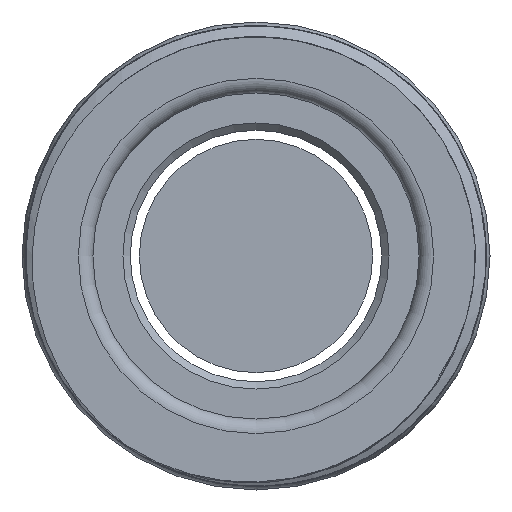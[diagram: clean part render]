
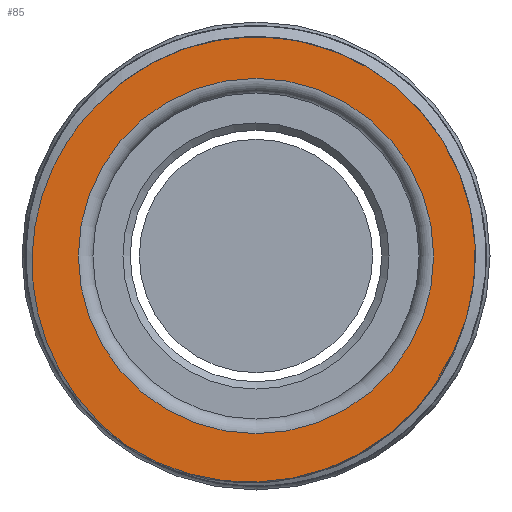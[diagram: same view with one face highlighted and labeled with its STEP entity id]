
A CAD part, front view. The second image highlights one B-rep face of the part: STEP entity #85.
In plain terms, the highlighted planar face has unit normal (0, -1, 0).
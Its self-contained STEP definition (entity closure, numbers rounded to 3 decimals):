
#32=B_SPLINE_CURVE_WITH_KNOTS('',3,(#492,#493,#494,#495,#496,#497,#498,#499,
#500,#501),.UNSPECIFIED.,.F.,.F.,(4,2,2,2,4),(0.,0.25,0.5,0.75,1.),.UNSPECIFIED.);
#33=B_SPLINE_CURVE_WITH_KNOTS('',3,(#504,#505,#506,#507,#508,#509,#510,#511),
 .UNSPECIFIED.,.F.,.F.,(4,2,2,4),(0.,0.5,0.75,1.),.UNSPECIFIED.);
#67=PLANE('',#354);
#85=ADVANCED_FACE('',(#119,#120),#67,.T.);
#119=FACE_BOUND('',#157,.T.);
#120=FACE_BOUND('',#158,.T.);
#157=EDGE_LOOP('',(#200));
#158=EDGE_LOOP('',(#201,#202,#203));
#200=ORIENTED_EDGE('',*,*,#292,.T.);
#201=ORIENTED_EDGE('',*,*,#293,.F.);
#202=ORIENTED_EDGE('',*,*,#294,.T.);
#203=ORIENTED_EDGE('',*,*,#295,.T.);
#264=VERTEX_POINT('',#491);
#265=VERTEX_POINT('',#502);
#266=VERTEX_POINT('',#503);
#267=VERTEX_POINT('',#512);
#292=EDGE_CURVE('',#264,#264,#325,.T.);
#293=EDGE_CURVE('',#265,#266,#32,.T.);
#294=EDGE_CURVE('',#265,#267,#33,.T.);
#295=EDGE_CURVE('',#267,#266,#326,.T.);
#325=CIRCLE('',#352,12.15);
#326=CIRCLE('',#353,15.);
#352=AXIS2_PLACEMENT_3D('',#490,#408,#409);
#353=AXIS2_PLACEMENT_3D('',#513,#410,#411);
#354=AXIS2_PLACEMENT_3D('',#514,#412,#413);
#408=DIRECTION('',(0.,1.,0.));
#409=DIRECTION('',(0.,0.,-1.));
#410=DIRECTION('',(0.,-1.,0.));
#411=DIRECTION('',(0.,0.,-1.));
#412=DIRECTION('',(0.,-1.,0.));
#413=DIRECTION('',(0.,0.,-1.));
#490=CARTESIAN_POINT('',(0.,0.,0.));
#491=CARTESIAN_POINT('',(0.,0.,-12.15));
#492=CARTESIAN_POINT('',(-8.941,0.,-12.917));
#493=CARTESIAN_POINT('',(-10.733,0.,-11.606));
#494=CARTESIAN_POINT('',(-12.219,0.,-9.933));
#495=CARTESIAN_POINT('',(-14.391,0.,-6.106));
#496=CARTESIAN_POINT('',(-15.062,0.,-3.95));
#497=CARTESIAN_POINT('',(-15.451,0.,0.416));
#498=CARTESIAN_POINT('',(-15.166,0.,2.659));
#499=CARTESIAN_POINT('',(-13.684,0.,6.801));
#500=CARTESIAN_POINT('',(-12.495,0.,8.696));
#501=CARTESIAN_POINT('',(-10.932,0.,10.271));
#502=CARTESIAN_POINT('',(-8.941,0.,-12.917));
#503=CARTESIAN_POINT('',(-10.932,0.,10.271));
#504=CARTESIAN_POINT('',(-8.933,0.,-12.923));
#505=CARTESIAN_POINT('',(-5.18,0.,-15.368));
#506=CARTESIAN_POINT('',(-0.597,0.,-16.105));
#507=CARTESIAN_POINT('',(5.885,0.,-14.299));
#508=CARTESIAN_POINT('',(7.826,0.,-13.266));
#509=CARTESIAN_POINT('',(11.223,0.,-10.375));
#510=CARTESIAN_POINT('',(12.538,0.,-8.637));
#511=CARTESIAN_POINT('',(13.467,0.,-6.606));
#512=CARTESIAN_POINT('',(13.467,0.,-6.606));
#513=CARTESIAN_POINT('',(0.,0.,0.));
#514=CARTESIAN_POINT('',(0.,0.,0.));
